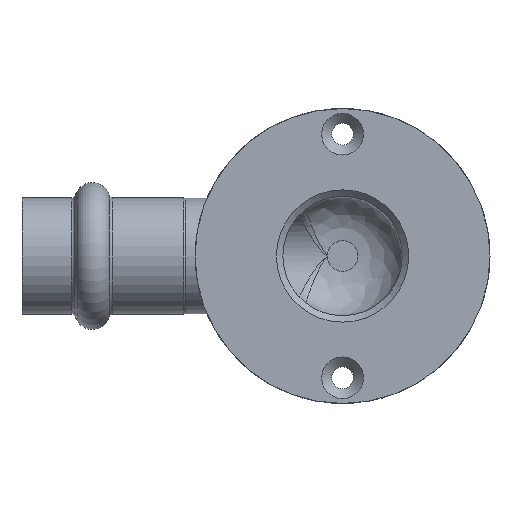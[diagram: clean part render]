
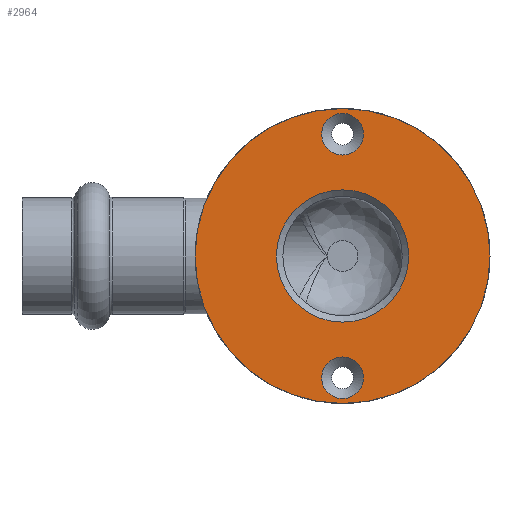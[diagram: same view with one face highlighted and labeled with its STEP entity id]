
A CAD part, front view. The second image highlights one B-rep face of the part: STEP entity #2964.
In plain terms, the highlighted planar face has unit normal (0, -1, 0).
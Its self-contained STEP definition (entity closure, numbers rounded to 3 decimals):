
#2878=CARTESIAN_POINT('',(10.316,-25.0,0.));
#2879=VERTEX_POINT('',#2878);
#2880=CARTESIAN_POINT('',(0.,-25.0,0.0));
#2881=DIRECTION('',(0.0,-1.0,0.0));
#2882=DIRECTION('',(-1.0,0.0,0.0));
#2883=AXIS2_PLACEMENT_3D('',#2880,#2881,#2882);
#2884=CIRCLE('',#2883,10.316);
#2885=EDGE_CURVE('',#2879,#2879,#2884,.T.);
#2923=CARTESIAN_POINT('',(11.5,-25.0,0.0));
#2924=DIRECTION('',(0.0,-1.0,0.0));
#2925=DIRECTION('',(0.0,0.0,-1.0));
#2926=AXIS2_PLACEMENT_3D('',#2923,#2924,#2925);
#2927=PLANE('',#2926);
#2928=CARTESIAN_POINT('',(23.0,-25.0,0.0));
#2929=VERTEX_POINT('',#2928);
#2930=CARTESIAN_POINT('',(0.,-25.,0.0));
#2931=DIRECTION('',(0.0,-1.0,0.0));
#2932=DIRECTION('',(1.0,0.0,0.0));
#2933=AXIS2_PLACEMENT_3D('',#2930,#2931,#2932);
#2934=CIRCLE('',#2933,23.);
#2935=EDGE_CURVE('',#2929,#2929,#2934,.T.);
#2936=ORIENTED_EDGE('',*,*,#2935,.T.);
#2937=EDGE_LOOP('',(#2936));
#2938=FACE_OUTER_BOUND('',#2937,.T.);
#2939=CARTESIAN_POINT('',(3.25,-25.0,19.0));
#2940=VERTEX_POINT('',#2939);
#2941=CARTESIAN_POINT('',(0.,-25.0,19.0));
#2942=DIRECTION('',(0.0,1.0,0.0));
#2943=DIRECTION('',(1.0,0.0,0.0));
#2944=AXIS2_PLACEMENT_3D('',#2941,#2942,#2943);
#2945=CIRCLE('',#2944,3.25);
#2946=EDGE_CURVE('',#2940,#2940,#2945,.T.);
#2947=ORIENTED_EDGE('',*,*,#2946,.T.);
#2948=EDGE_LOOP('',(#2947));
#2949=FACE_BOUND('',#2948,.T.);
#2950=CARTESIAN_POINT('',(3.25,-25.0,-19.0));
#2951=VERTEX_POINT('',#2950);
#2952=CARTESIAN_POINT('',(0.,-25.0,-19.0));
#2953=DIRECTION('',(0.0,1.0,0.0));
#2954=DIRECTION('',(1.0,0.0,0.0));
#2955=AXIS2_PLACEMENT_3D('',#2952,#2953,#2954);
#2956=CIRCLE('',#2955,3.25);
#2957=EDGE_CURVE('',#2951,#2951,#2956,.T.);
#2958=ORIENTED_EDGE('',*,*,#2957,.T.);
#2959=EDGE_LOOP('',(#2958));
#2960=FACE_BOUND('',#2959,.T.);
#2961=ORIENTED_EDGE('',*,*,#2885,.F.);
#2962=EDGE_LOOP('',(#2961));
#2963=FACE_BOUND('',#2962,.T.);
#2964=ADVANCED_FACE('',(#2938,#2949,#2960,#2963),#2927,.T.);
